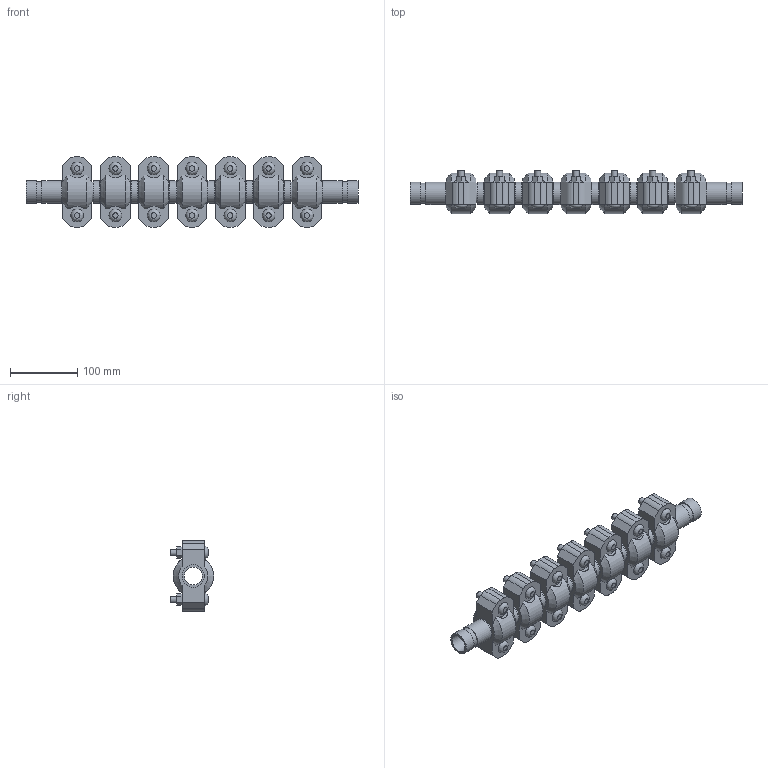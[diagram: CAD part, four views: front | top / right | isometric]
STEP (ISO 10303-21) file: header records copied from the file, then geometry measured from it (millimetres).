
FILE_DESCRIPTION(/* description */ ('VIC EXPANSION JOINT 7 COUPLINGS COMPRESSED STYLE 155 (OGS)','CAx-IF Rec.Pracs.---Representation and Presentation of Product Manufacturing Information (PMI)---4.0---2014-10-13'),/* implementation_level */ '2;1');
FILE_NAME(/* name */ 'C:\Users\kkamble\AppData\Roaming\Autodesk\ApplicationPlugins\Victaulic.Temp\A262\Victaulic_IPS_Expansion Joint_Compressed_7 Couplings_Style 155 (OGS)_1 (25).stp',/* time_stamp */ '2021-06-27T00:33:25+02:00',/* author */ ('kkamble'),/* organization */ ('Victaulic'),/* preprocessor_version */ 'ST-DEVELOPER v17.2',/* originating_system */ 'Autodesk Inventor 2019',/* authorisation */ '');
FILE_SCHEMA (('AP242_MANAGED_MODEL_BASED_3D_ENGINEERING_MIM_LF { 1 0 10303 442 1 1 4 }'));
Length unit declared in the file: inch
Products named in the file (4): 155-01.0; Nipple-01.0; Nipple-01.0_1; 077-01.0
Assembly tree (15 placements, depth 2):
  155-01.0
    Nipple-01.0  x2
    Nipple-01.0_1  x6
    077-01.0  x7
Bounding box: 495.3 x 64.33 x 104.65 mm (x, y, z)
Volume: 1154248.6 mm3; surface area: 302665.2 mm2
Topology: 15 solids, 29 shells, 495 faces, 1213 edges, 850 vertices
Faces by surface type: plane 286, cylinder 167, cone 28, bspline 14
Full cylindrical faces by diameter (mm): 9.525 x28, 11.43 x14, 26.645 x8, 30.226 x16, 33.401 x31
Entity records: 2923 total; most frequent: CARTESIAN_POINT 561, DIRECTION 475, ORIENTED_EDGE 398, EDGE_CURVE 199, AXIS2_PLACEMENT_3D 190, VERTEX_POINT 142, EDGE_LOOP 105, LINE 95
